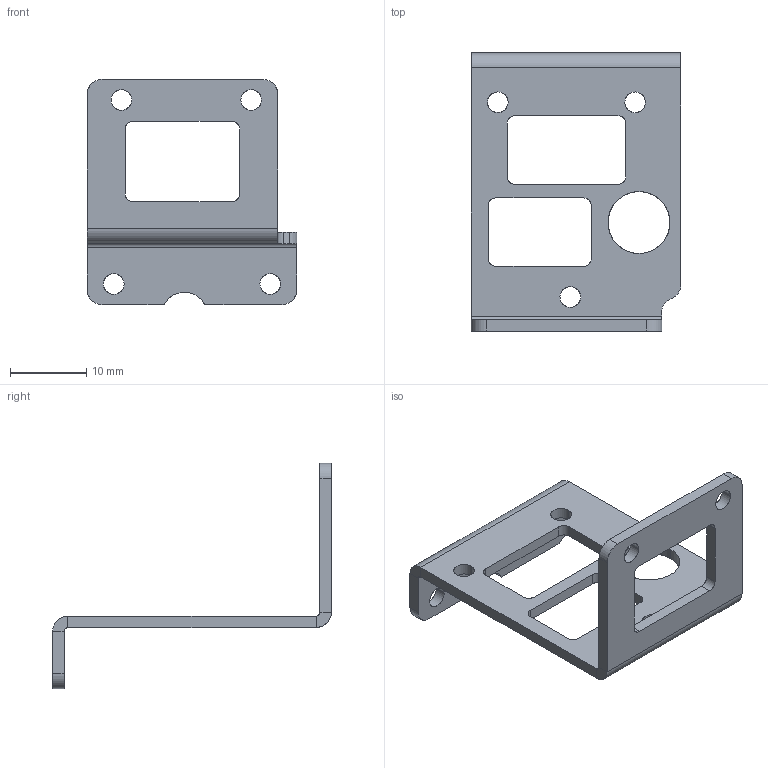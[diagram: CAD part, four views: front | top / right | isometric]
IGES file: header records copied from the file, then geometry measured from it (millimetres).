
Global section: file name: C:\Users\Knabe\Documents\Classes\8 Semester 8\DARwIn\Deliverables\DARwIn OP\DARwIn OP Part Files\OP 3D CAD Files\3D IGS\9L_PR13_B_BRKT_PELV_L.igs; native system: NX V7.0; preprocessor: SIEMENS PLM Software NX 7.0; date: 20110525.180250; units: millimetre
Bounding box: 27.5 x 36.5 x 29.5 mm (x, y, z)
Surface area: 2940.2 mm2 (no closed solid volume)
Topology: 0 solids, 0 shells, 72 faces, 522 edges, 522 vertices
Faces by surface type: bspline 72
